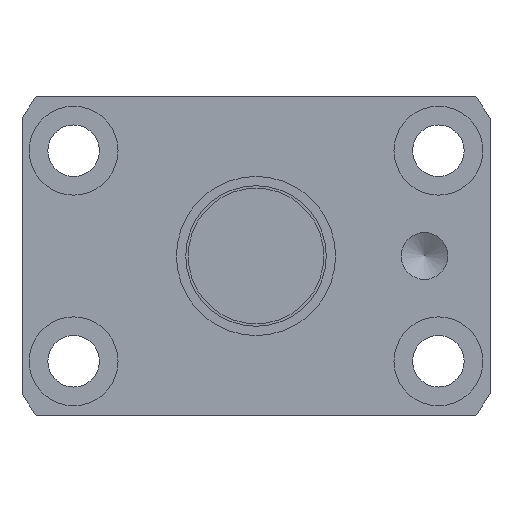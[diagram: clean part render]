
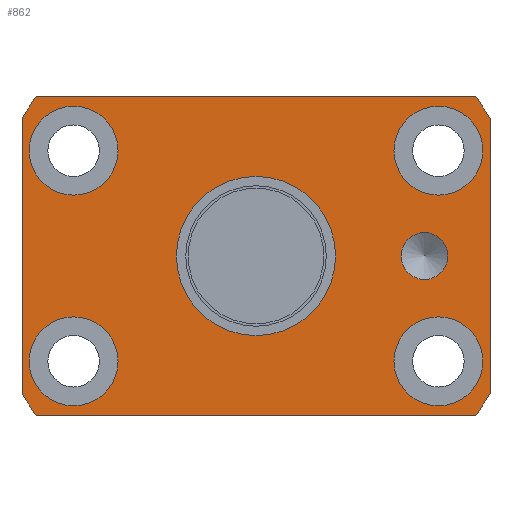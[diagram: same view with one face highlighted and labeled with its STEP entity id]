
A CAD part, left-side view. The second image highlights one B-rep face of the part: STEP entity #862.
In plain terms, the highlighted planar face has unit normal (-1, 0, 0).
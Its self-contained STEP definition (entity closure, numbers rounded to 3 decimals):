
#130 = VECTOR ( 'NONE', #1270, 1000. ) ;
#154 = DIRECTION ( 'NONE',  ( 0., 1., 0. ) ) ;
#194 = AXIS2_PLACEMENT_3D ( 'NONE', #2493, #690, #2445 ) ;
#222 = DIRECTION ( 'NONE',  ( 1., 0., 0. ) ) ;
#248 = EDGE_LOOP ( 'NONE', ( #1146 ) ) ;
#254 = DIRECTION ( 'NONE',  ( 0., 1., 0. ) ) ;
#266 = CARTESIAN_POINT ( 'NONE',  ( 0., 19.486, 11.25 ) ) ;
#281 = EDGE_CURVE ( 'NONE', #1293, #518, #2548, .T. ) ;
#292 = AXIS2_PLACEMENT_3D ( 'NONE', #928, #425, #1957 ) ;
#303 = EDGE_CURVE ( 'NONE', #1139, #1139, #1969, .T. ) ;
#324 = CARTESIAN_POINT ( 'NONE',  ( 0., 8.5, 0. ) ) ;
#393 = VERTEX_POINT ( 'NONE', #1999 ) ;
#411 = CIRCLE ( 'NONE', #2297, 4.75 ) ;
#425 = DIRECTION ( 'NONE',  ( 1., 0., 0. ) ) ;
#451 = CARTESIAN_POINT ( 'NONE',  ( 0., -23.495, -17. ) ) ;
#506 = ORIENTED_EDGE ( 'NONE', *, *, #1553, .F. ) ;
#517 = DIRECTION ( 'NONE',  ( 0., 0., 1. ) ) ;
#518 = VERTEX_POINT ( 'NONE', #2245 ) ;
#525 = LINE ( 'NONE', #1031, #1978 ) ;
#598 = DIRECTION ( 'NONE',  ( 0., 1., 0. ) ) ;
#649 = VERTEX_POINT ( 'NONE', #836 ) ;
#659 = VERTEX_POINT ( 'NONE', #2706 ) ;
#681 = EDGE_CURVE ( 'NONE', #3170, #3170, #1216, .T. ) ;
#690 = DIRECTION ( 'NONE',  ( 1., 0., 0. ) ) ;
#786 = VECTOR ( 'NONE', #1921, 1000. ) ;
#789 = AXIS2_PLACEMENT_3D ( 'NONE', #3023, #1178, #2179 ) ;
#800 = CARTESIAN_POINT ( 'NONE',  ( 0., 25., -14.697 ) ) ;
#836 = CARTESIAN_POINT ( 'NONE',  ( 0., 25., 14.697 ) ) ;
#848 = FACE_BOUND ( 'NONE', #2631, .T. ) ;
#862 = ADVANCED_FACE ( 'NONE', ( #2380, #3171, #848, #2332, #1262, #2589, #2067 ), #2573, .T. ) ;
#891 = LINE ( 'NONE', #1955, #786 ) ;
#916 = CARTESIAN_POINT ( 'NONE',  ( 0., 24.236, -11.25 ) ) ;
#928 = CARTESIAN_POINT ( 'NONE',  ( 0., 0., 0. ) ) ;
#964 = CARTESIAN_POINT ( 'NONE',  ( 0., -25., 14.697 ) ) ;
#1005 = CIRCLE ( 'NONE', #789, 4.75 ) ;
#1031 = CARTESIAN_POINT ( 'NONE',  ( 0., 25., 17. ) ) ;
#1038 = CARTESIAN_POINT ( 'NONE',  ( 0., 12.75, 0. ) ) ;
#1063 = ORIENTED_EDGE ( 'NONE', *, *, #2008, .T. ) ;
#1069 = ORIENTED_EDGE ( 'NONE', *, *, #1202, .F. ) ;
#1084 = CARTESIAN_POINT ( 'NONE',  ( 0., -23.495, 17. ) ) ;
#1139 = VERTEX_POINT ( 'NONE', #2876 ) ;
#1142 = ORIENTED_EDGE ( 'NONE', *, *, #1692, .F. ) ;
#1146 = ORIENTED_EDGE ( 'NONE', *, *, #1339, .T. ) ;
#1152 = DIRECTION ( 'NONE',  ( 1., 0., 0. ) ) ;
#1161 = CARTESIAN_POINT ( 'NONE',  ( 0., 23.495, 17. ) ) ;
#1178 = DIRECTION ( 'NONE',  ( 1., 0., 0. ) ) ;
#1189 = LINE ( 'NONE', #2687, #2186 ) ;
#1196 = ORIENTED_EDGE ( 'NONE', *, *, #2680, .F. ) ;
#1202 = EDGE_CURVE ( 'NONE', #1389, #2866, #2125, .T. ) ;
#1216 = CIRCLE ( 'NONE', #3159, 8.5 ) ;
#1228 = CIRCLE ( 'NONE', #2956, 29. ) ;
#1260 = EDGE_CURVE ( 'NONE', #518, #2716, #1432, .T. ) ;
#1261 = EDGE_LOOP ( 'NONE', ( #1063 ) ) ;
#1262 = FACE_BOUND ( 'NONE', #248, .T. ) ;
#1265 = AXIS2_PLACEMENT_3D ( 'NONE', #266, #222, #254 ) ;
#1270 = DIRECTION ( 'NONE',  ( 0., 0., -1. ) ) ;
#1293 = VERTEX_POINT ( 'NONE', #964 ) ;
#1339 = EDGE_CURVE ( 'NONE', #393, #393, #3274, .T. ) ;
#1343 = EDGE_CURVE ( 'NONE', #649, #2616, #2073, .T. ) ;
#1352 = EDGE_LOOP ( 'NONE', ( #2769 ) ) ;
#1387 = CIRCLE ( 'NONE', #1815, 2.5 ) ;
#1389 = VERTEX_POINT ( 'NONE', #1504 ) ;
#1432 = CIRCLE ( 'NONE', #292, 29. ) ;
#1499 = CARTESIAN_POINT ( 'NONE',  ( 0., -18., 0. ) ) ;
#1504 = CARTESIAN_POINT ( 'NONE',  ( 0., 23.495, -17. ) ) ;
#1511 = DIRECTION ( 'NONE',  ( 0., -1., 0. ) ) ;
#1519 = CARTESIAN_POINT ( 'NONE',  ( 0., 0., 0. ) ) ;
#1553 = EDGE_CURVE ( 'NONE', #2866, #649, #891, .T. ) ;
#1564 = DIRECTION ( 'NONE',  ( 1., 0., 0. ) ) ;
#1692 = EDGE_CURVE ( 'NONE', #2616, #3011, #525, .T. ) ;
#1755 = DIRECTION ( 'NONE',  ( -1., 0., 0. ) ) ;
#1775 = ORIENTED_EDGE ( 'NONE', *, *, #2754, .F. ) ;
#1787 = CARTESIAN_POINT ( 'NONE',  ( 0., -19.486, -11.25 ) ) ;
#1804 = AXIS2_PLACEMENT_3D ( 'NONE', #1519, #2546, #3330 ) ;
#1815 = AXIS2_PLACEMENT_3D ( 'NONE', #1499, #2526, #2273 ) ;
#1921 = DIRECTION ( 'NONE',  ( 0., 0., 1. ) ) ;
#1955 = CARTESIAN_POINT ( 'NONE',  ( 0., 25., -17. ) ) ;
#1957 = DIRECTION ( 'NONE',  ( 0., 1., 0. ) ) ;
#1969 = CIRCLE ( 'NONE', #1265, 4.75 ) ;
#1972 = DIRECTION ( 'NONE',  ( 0., 1., 0. ) ) ;
#1978 = VECTOR ( 'NONE', #1511, 1000. ) ;
#1996 = DIRECTION ( 'NONE',  ( 1., 0., 0. ) ) ;
#1999 = CARTESIAN_POINT ( 'NONE',  ( 0., -14.736, -11.25 ) ) ;
#2008 = EDGE_CURVE ( 'NONE', #3238, #3238, #411, .T. ) ;
#2067 = FACE_BOUND ( 'NONE', #1352, .T. ) ;
#2073 = CIRCLE ( 'NONE', #1804, 29. ) ;
#2083 = ORIENTED_EDGE ( 'NONE', *, *, #281, .F. ) ;
#2125 = CIRCLE ( 'NONE', #194, 29. ) ;
#2135 = EDGE_CURVE ( 'NONE', #2716, #1389, #1189, .T. ) ;
#2144 = EDGE_LOOP ( 'NONE', ( #1775 ) ) ;
#2179 = DIRECTION ( 'NONE',  ( 0., 1., 0. ) ) ;
#2186 = VECTOR ( 'NONE', #154, 1000. ) ;
#2215 = DIRECTION ( 'NONE',  ( 0., 1., 0. ) ) ;
#2230 = CARTESIAN_POINT ( 'NONE',  ( 0., 19.486, -11.25 ) ) ;
#2234 = ORIENTED_EDGE ( 'NONE', *, *, #2456, .T. ) ;
#2245 = CARTESIAN_POINT ( 'NONE',  ( 0., -25., -14.697 ) ) ;
#2252 = CARTESIAN_POINT ( 'NONE',  ( 0., -18., 2.5 ) ) ;
#2266 = EDGE_LOOP ( 'NONE', ( #2538 ) ) ;
#2273 = DIRECTION ( 'NONE',  ( 0., 0., 1. ) ) ;
#2297 = AXIS2_PLACEMENT_3D ( 'NONE', #2230, #1152, #2215 ) ;
#2311 = CARTESIAN_POINT ( 'NONE',  ( 0., -25., 17. ) ) ;
#2332 = FACE_BOUND ( 'NONE', #2266, .T. ) ;
#2380 = FACE_BOUND ( 'NONE', #2144, .T. ) ;
#2445 = DIRECTION ( 'NONE',  ( 0., 1., 0. ) ) ;
#2456 = EDGE_CURVE ( 'NONE', #659, #659, #1005, .T. ) ;
#2459 = DIRECTION ( 'NONE',  ( 1., 0., 0. ) ) ;
#2468 = VERTEX_POINT ( 'NONE', #2252 ) ;
#2493 = CARTESIAN_POINT ( 'NONE',  ( 0., 0., 0. ) ) ;
#2526 = DIRECTION ( 'NONE',  ( -1., 0., 0. ) ) ;
#2538 = ORIENTED_EDGE ( 'NONE', *, *, #303, .T. ) ;
#2546 = DIRECTION ( 'NONE',  ( 1., 0., 0. ) ) ;
#2548 = LINE ( 'NONE', #2311, #130 ) ;
#2557 = AXIS2_PLACEMENT_3D ( 'NONE', #1038, #1755, #517 ) ;
#2573 = PLANE ( 'NONE',  #2557 ) ;
#2589 = FACE_OUTER_BOUND ( 'NONE', #2775, .T. ) ;
#2616 = VERTEX_POINT ( 'NONE', #1161 ) ;
#2631 = EDGE_LOOP ( 'NONE', ( #2234 ) ) ;
#2680 = EDGE_CURVE ( 'NONE', #3011, #1293, #1228, .T. ) ;
#2687 = CARTESIAN_POINT ( 'NONE',  ( 0., -25., -17. ) ) ;
#2689 = ORIENTED_EDGE ( 'NONE', *, *, #1260, .F. ) ;
#2706 = CARTESIAN_POINT ( 'NONE',  ( 0., -14.736, 11.25 ) ) ;
#2716 = VERTEX_POINT ( 'NONE', #451 ) ;
#2754 = EDGE_CURVE ( 'NONE', #2468, #2468, #1387, .T. ) ;
#2769 = ORIENTED_EDGE ( 'NONE', *, *, #681, .T. ) ;
#2775 = EDGE_LOOP ( 'NONE', ( #3070, #2689, #2083, #1196, #1142, #3248, #506, #1069 ) ) ;
#2855 = CARTESIAN_POINT ( 'NONE',  ( 0., 0., 0. ) ) ;
#2866 = VERTEX_POINT ( 'NONE', #800 ) ;
#2876 = CARTESIAN_POINT ( 'NONE',  ( 0., 24.236, 11.25 ) ) ;
#2944 = AXIS2_PLACEMENT_3D ( 'NONE', #1787, #1996, #3311 ) ;
#2956 = AXIS2_PLACEMENT_3D ( 'NONE', #3277, #2459, #1972 ) ;
#3011 = VERTEX_POINT ( 'NONE', #1084 ) ;
#3023 = CARTESIAN_POINT ( 'NONE',  ( 0., -19.486, 11.25 ) ) ;
#3070 = ORIENTED_EDGE ( 'NONE', *, *, #2135, .F. ) ;
#3159 = AXIS2_PLACEMENT_3D ( 'NONE', #2855, #1564, #598 ) ;
#3170 = VERTEX_POINT ( 'NONE', #324 ) ;
#3171 = FACE_BOUND ( 'NONE', #1261, .T. ) ;
#3238 = VERTEX_POINT ( 'NONE', #916 ) ;
#3248 = ORIENTED_EDGE ( 'NONE', *, *, #1343, .F. ) ;
#3274 = CIRCLE ( 'NONE', #2944, 4.75 ) ;
#3277 = CARTESIAN_POINT ( 'NONE',  ( 0., 0., 0. ) ) ;
#3311 = DIRECTION ( 'NONE',  ( 0., 1., 0. ) ) ;
#3330 = DIRECTION ( 'NONE',  ( 0., 1., 0. ) ) ;
